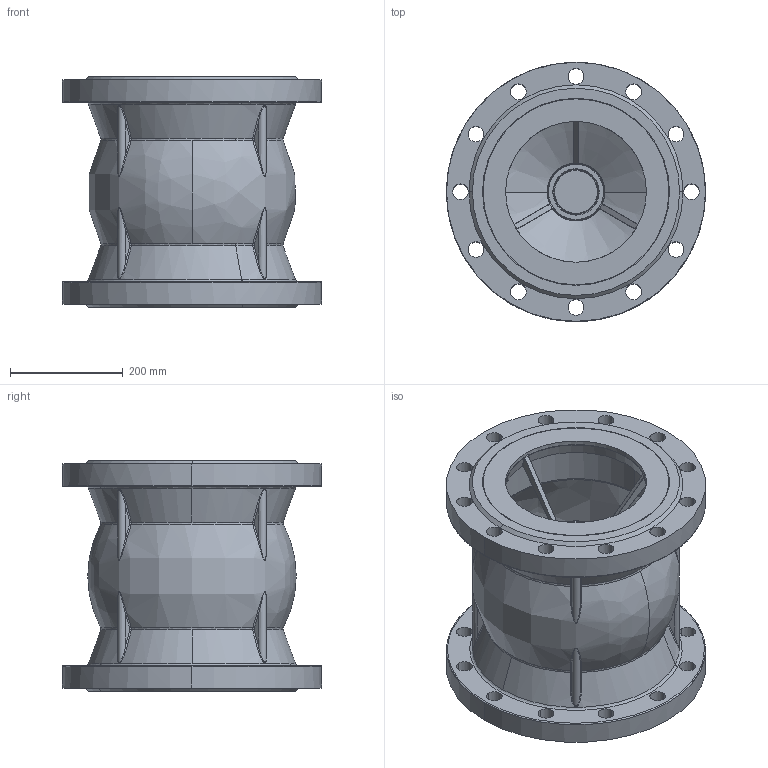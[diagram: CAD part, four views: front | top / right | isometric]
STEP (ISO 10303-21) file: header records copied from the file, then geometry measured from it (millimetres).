
FILE_DESCRIPTION (( 'STEP AP203' ), '1' );
FILE_NAME ('0.STEP', '2017-04-05T13:41:33', ( 'User' ), ( 'shendu' ), 'SwSTEP 2.0', 'SolidWorks 2015', '' );
FILE_SCHEMA (( 'CONFIG_CONTROL_DESIGN' ));
Products named in the file (1): 0
Bounding box: 460 x 460 x 410 mm (x, y, z)
Surface area: 2023408.4 mm2 (no closed solid volume)
Topology: 0 solids, 7 shells, 643 faces, 1521 edges, 877 vertices
Faces by surface type: bspline 396, cylinder 153, plane 56, cone 38
Entity records: 260835 total; most frequent: CARTESIAN_POINT 248912, ORIENTED_EDGE 2996, EDGE_CURVE 1500, DIRECTION 1483, VERTEX_POINT 877, B_SPLINE_CURVE_WITH_KNOTS 852, EDGE_LOOP 713, ADVANCED_FACE 643
